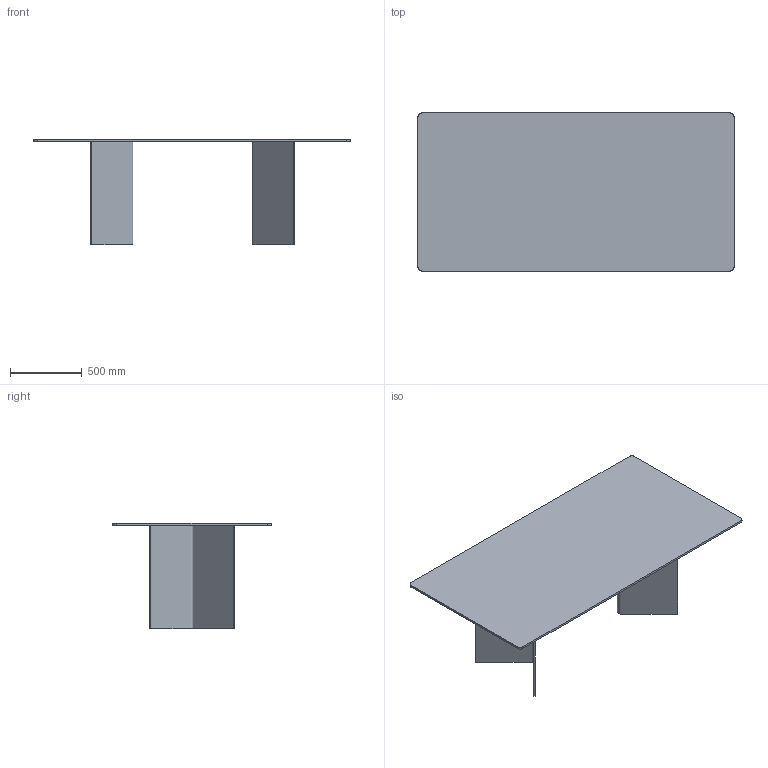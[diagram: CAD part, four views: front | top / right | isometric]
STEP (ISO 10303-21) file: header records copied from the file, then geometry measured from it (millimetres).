
FILE_DESCRIPTION(/* description */ (''),/* implementation_level */ '2;1');
FILE_NAME(/* name */ '216622 - corner 220x110',/* time_stamp */ '2014-07-31T16:07:42+02:00',/* author */ (''),/* organization */ (''),/* preprocessor_version */ 'ST-DEVELOPER v10',/* originating_system */ '',/* authorisation */ '');
FILE_SCHEMA (('CONFIG_CONTROL_DESIGN'));
Length unit declared in the file: millimetre
Products named in the file (1): 1
Bounding box: 2200 x 1100 x 735 mm (x, y, z)
Volume: 51337745.5 mm3; surface area: 7373958.2 mm2
Topology: 3 solids, 3 shells, 24 faces, 54 edges, 36 vertices
Faces by surface type: plane 16, bspline 8
Entity records: 758 total; most frequent: CARTESIAN_POINT 314, ORIENTED_EDGE 108, EDGE_CURVE 54, VERTEX_POINT 36, B_SPLINE_CURVE_WITH_KNOTS 30, ADVANCED_FACE 24, FACE_OUTER_BOUND 24, EDGE_LOOP 24
